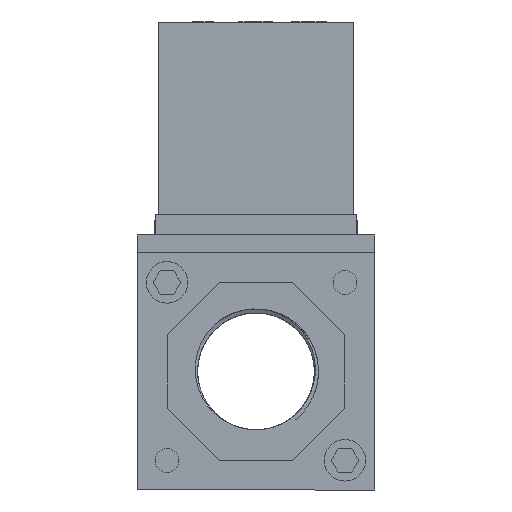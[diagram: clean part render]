
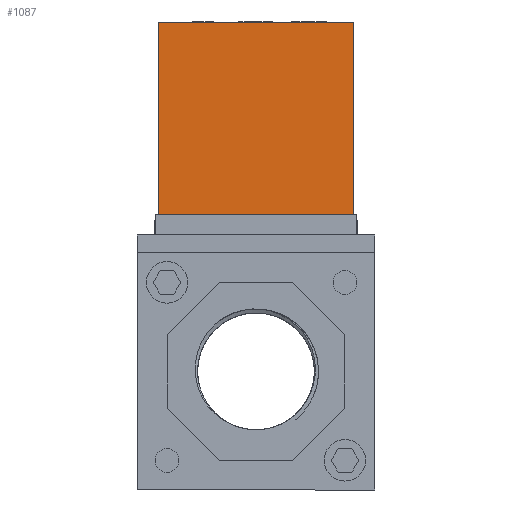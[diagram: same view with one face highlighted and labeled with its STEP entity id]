
A CAD part, left-side view. The second image highlights one B-rep face of the part: STEP entity #1087.
In plain terms, the highlighted planar face has unit normal (-1, 0, 0) as drawn and (1, 0, 0) by its records, which use the part's own axes.
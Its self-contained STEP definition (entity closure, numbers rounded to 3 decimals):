
#959 = VERTEX_POINT ( 'NONE', #18684 ) ;
#1087 = ADVANCED_FACE ( 'NONE', ( #6530 ), #5312, .F. ) ;
#1791 = CARTESIAN_POINT ( 'NONE',  ( 57., 0., 0. ) ) ;
#2100 = VECTOR ( 'NONE', #14426, 1000. ) ;
#3261 = LINE ( 'NONE', #6111, #15953 ) ;
#4821 = LINE ( 'NONE', #1791, #13404 ) ;
#5232 = DIRECTION ( 'NONE',  ( 0., 0., -1. ) ) ;
#5312 = PLANE ( 'NONE',  #13424 ) ;
#5406 = EDGE_LOOP ( 'NONE', ( #15300, #18338, #16116, #19648 ) ) ;
#6111 = CARTESIAN_POINT ( 'NONE',  ( 57., 0., 33. ) ) ;
#6377 = EDGE_CURVE ( 'NONE', #8127, #959, #6666, .T. ) ;
#6530 = FACE_OUTER_BOUND ( 'NONE', #5406, .T. ) ;
#6666 = LINE ( 'NONE', #12715, #9266 ) ;
#8127 = VERTEX_POINT ( 'NONE', #10311 ) ;
#8957 = EDGE_CURVE ( 'NONE', #9882, #8127, #10063, .T. ) ;
#9254 = CARTESIAN_POINT ( 'NONE',  ( 57., 0., 33. ) ) ;
#9266 = VECTOR ( 'NONE', #5232, 1000. ) ;
#9882 = VERTEX_POINT ( 'NONE', #9254 ) ;
#10063 = LINE ( 'NONE', #16243, #2100 ) ;
#10311 = CARTESIAN_POINT ( 'NONE',  ( 57., 32.4, 33. ) ) ;
#10393 = CARTESIAN_POINT ( 'NONE',  ( 57., 0., 0. ) ) ;
#11477 = DIRECTION ( 'NONE',  ( -1., 0., 0. ) ) ;
#12715 = CARTESIAN_POINT ( 'NONE',  ( 57., 32.4, 33. ) ) ;
#13404 = VECTOR ( 'NONE', #14435, 1000. ) ;
#13424 = AXIS2_PLACEMENT_3D ( 'NONE', #18883, #11477, #17671 ) ;
#13484 = EDGE_CURVE ( 'NONE', #9882, #16347, #3261, .T. ) ;
#14426 = DIRECTION ( 'NONE',  ( 0., 1., 0. ) ) ;
#14435 = DIRECTION ( 'NONE',  ( 0., 1., 0. ) ) ;
#15300 = ORIENTED_EDGE ( 'NONE', *, *, #18088, .T. ) ;
#15512 = DIRECTION ( 'NONE',  ( 0., 0., -1. ) ) ;
#15953 = VECTOR ( 'NONE', #15512, 1000. ) ;
#16116 = ORIENTED_EDGE ( 'NONE', *, *, #8957, .F. ) ;
#16243 = CARTESIAN_POINT ( 'NONE',  ( 57., 0., 33. ) ) ;
#16347 = VERTEX_POINT ( 'NONE', #10393 ) ;
#17671 = DIRECTION ( 'NONE',  ( 0., 0., 1. ) ) ;
#18088 = EDGE_CURVE ( 'NONE', #16347, #959, #4821, .T. ) ;
#18338 = ORIENTED_EDGE ( 'NONE', *, *, #6377, .F. ) ;
#18684 = CARTESIAN_POINT ( 'NONE',  ( 57., 32.4, 0. ) ) ;
#18883 = CARTESIAN_POINT ( 'NONE',  ( 57., 0., 33. ) ) ;
#19648 = ORIENTED_EDGE ( 'NONE', *, *, #13484, .T. ) ;
